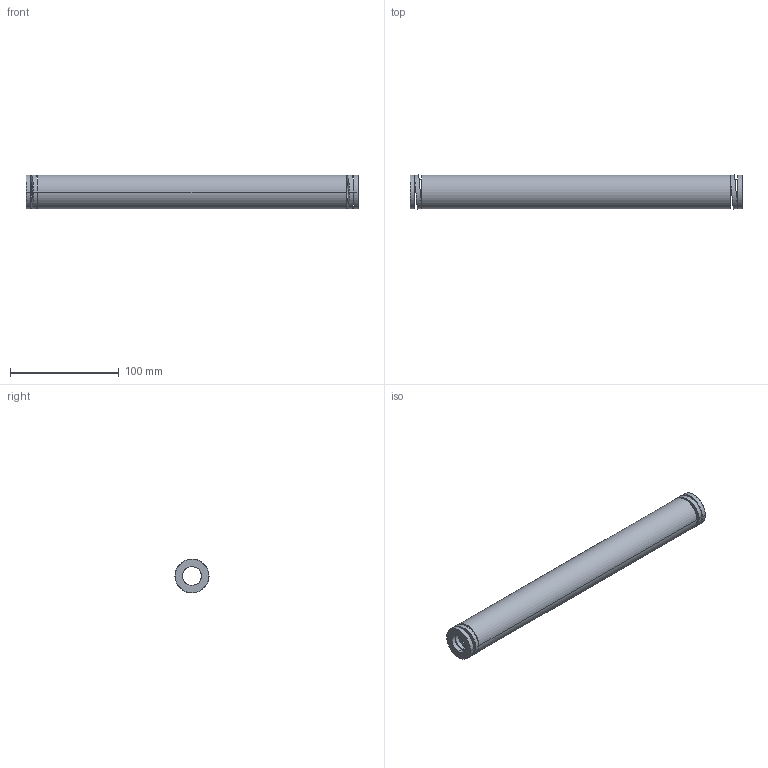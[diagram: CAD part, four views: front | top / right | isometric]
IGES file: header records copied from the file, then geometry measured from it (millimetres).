
Start section: START RECORD GO HERE.
Global section: file name: 392-B32-305.igs; native system: DASSAULT SYSTEMES CATIA V5 R20 - www.3ds.com; preprocessor: CATIA Version 5 Release 20 ; author: Utente; organization: NB04-ASUS; date: 20210813.121330; units: millimetre
Bounding box: 305 x 31.24 x 31 mm (x, y, z)
Surface area: 50663.2 mm2 (no closed solid volume)
Topology: 0 solids, 0 shells, 38 faces, 184 edges, 184 vertices
Faces by surface type: revolution 28, plane 10
